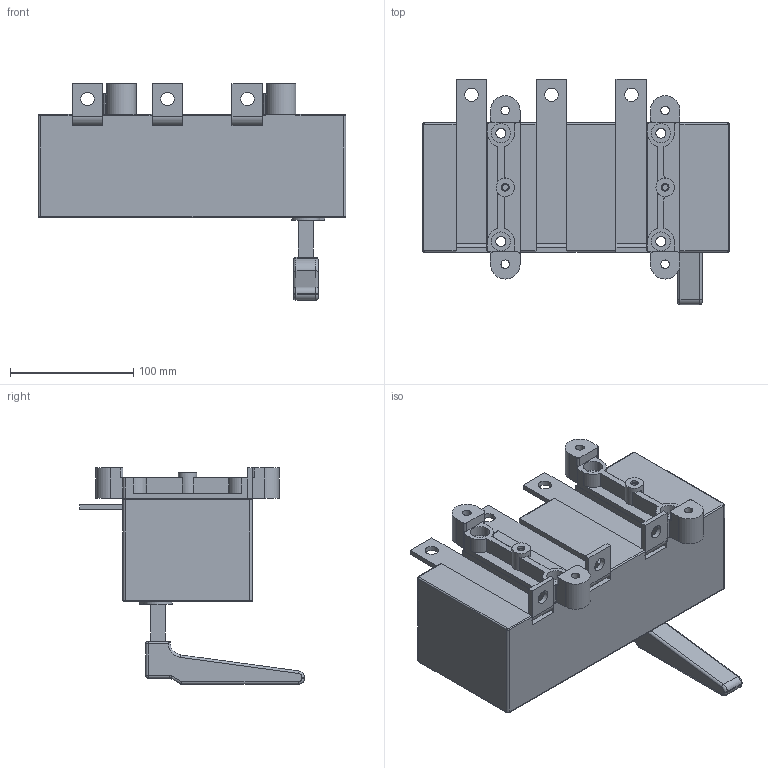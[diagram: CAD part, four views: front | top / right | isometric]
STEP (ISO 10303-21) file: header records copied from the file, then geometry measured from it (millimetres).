
FILE_DESCRIPTION(/* description */ (''),/* implementation_level */ '2;1');
FILE_NAME(/* name */ 'RA400 P3 A-R.stp',/* time_stamp */ '2021-08-18T14:13:20+02:00',/* author */ (''),/* organization */ (''),/* preprocessor_version */ 'ST-DEVELOPER v18.1',/* originating_system */ 'SIEMENS PLM Software NX 1965',/* authorisation */ '');
FILE_SCHEMA (('INTEGRATED_CNC_SCHEMA'));
Length unit declared in the file: millimetre
Products named in the file (1): RA400 P3 A-R_stp
Bounding box: 250 x 182.79 x 176 mm (x, y, z)
Volume: 2299150.4 mm3; surface area: 170764.1 mm2
Topology: 1 solids, 1 shells, 264 faces, 675 edges, 422 vertices
Faces by surface type: plane 129, cylinder 113, torus 13, sphere 6, bspline 3
Full cylindrical faces by diameter (mm): 4.8 x2, 6.2 x2, 7 x4, 8.2 x4, 11 x6, 14 x4, 15 x2, 15.5 x4
Entity records: 7890 total; most frequent: DIRECTION 1409, CARTESIAN_POINT 1397, ORIENTED_EDGE 1274, EDGE_CURVE 637, AXIS2_PLACEMENT_3D 514, VERTEX_POINT 418, LINE 381, VECTOR 381
